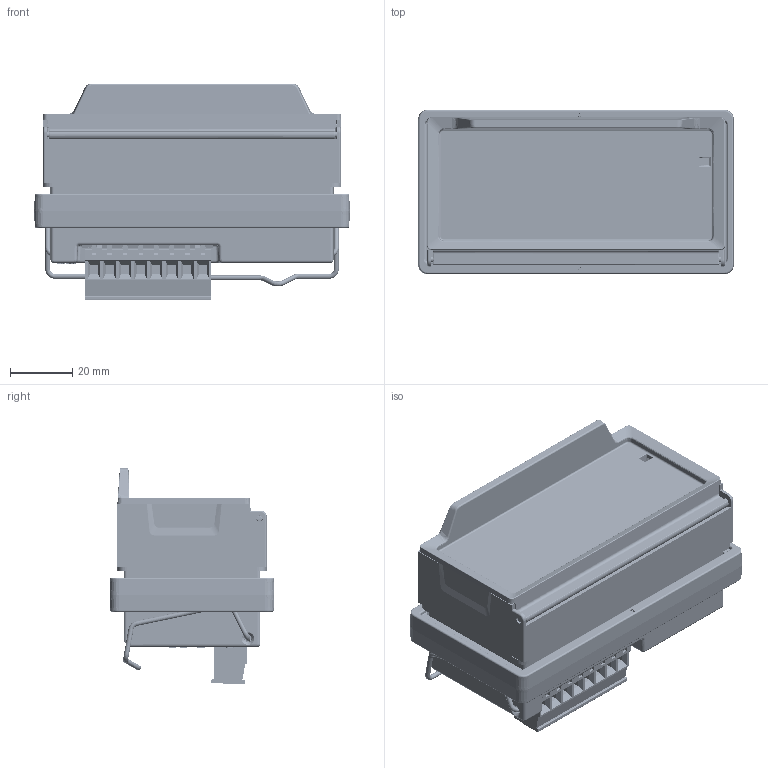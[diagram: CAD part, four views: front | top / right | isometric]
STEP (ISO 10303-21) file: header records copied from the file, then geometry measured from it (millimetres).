
FILE_DESCRIPTION (( 'STEP AP214' ), '1' );
FILE_NAME ('DiggiMEC-B with Hatch.STEP', '2024-09-02T09:47:16', ( '' ), ( '' ), 'SwSTEP 2.0', 'SolidWorks 2023', '' );
FILE_SCHEMA (( 'AUTOMOTIVE_DESIGN' ));
Length unit declared in the file: millimetre
Products named in the file (1): DiggiMEC-B with Hatch
Bounding box: 101.5 x 53 x 69.5 mm (x, y, z)
Surface area: 117057.9 mm2 (no closed solid volume)
Topology: 0 solids, 85 shells, 8192 faces, 22174 edges, 14283 vertices
Faces by surface type: plane 5273, cylinder 1780, bspline 764, cone 187, torus 130, sphere 58
Full cylindrical faces by diameter (mm): 0.217 x1, 0.45 x2, 0.7 x6, 0.94 x6, 1 x3, 1.1 x9, 1.14 x1, 1.45 x8, 1.5 x9, 1.52 x1, 1.6 x15, 2 x5, 2.03 x6, 2.76 x8, 3.5 x4, 3.7 x8, 3.85 x8, 4 x8
Entity records: 361730 total; most frequent: CARTESIAN_POINT 76155, ORIENTED_EDGE 43424, DIRECTION 36745, EDGE_CURVE 21745, LINE 15603, VECTOR 15603, VERTEX_POINT 14185, AXIS2_PLACEMENT_3D 10571
